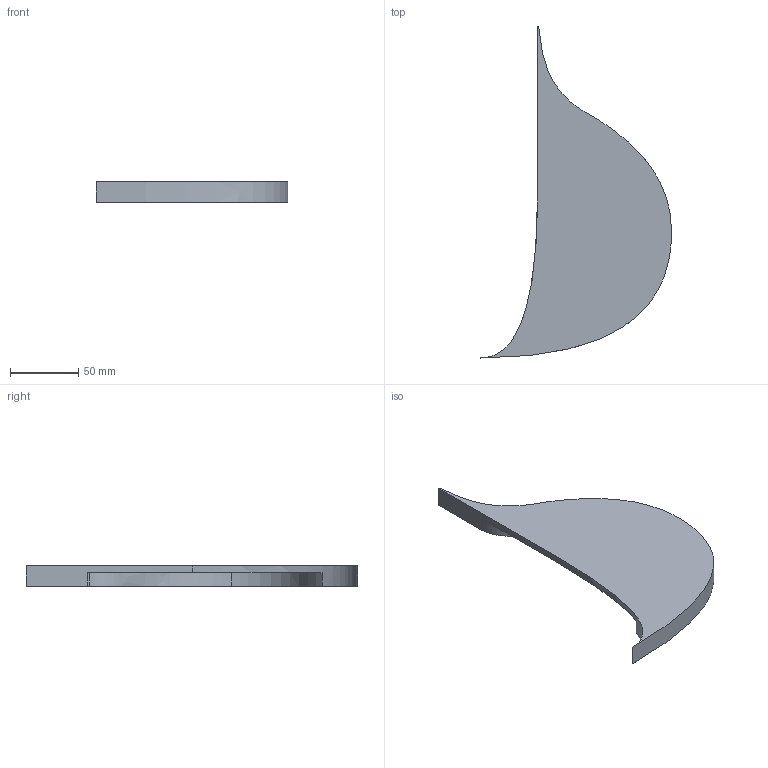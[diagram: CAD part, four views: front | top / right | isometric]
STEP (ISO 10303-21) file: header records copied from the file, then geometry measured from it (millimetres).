
FILE_DESCRIPTION(('FreeCAD Model'),'2;1');
FILE_NAME('Open CASCADE Shape Model','2024-03-17T22:25:42',('Author'),( ''),'Open CASCADE STEP processor 7.6','FreeCAD','Unknown');
FILE_SCHEMA(('AUTOMOTIVE_DESIGN { 1 0 10303 214 1 1 1 1 }'));
Length unit declared in the file: millimetre
Products named in the file (1): TechHalf_CNC
Bounding box: 140 x 242.98 x 15 mm (x, y, z)
Volume: 144848.2 mm3; surface area: 41056.5 mm2
Topology: 1 solids, 1 shells, 15 faces, 33 edges, 23 vertices
Faces by surface type: plane 8, extrusion 6, cylinder 1
Entity records: 973 total; most frequent: CARTESIAN_POINT 313, DIRECTION 96, ORIENTED_EDGE 66, PCURVE 66, DEFINITIONAL_REPRESENTATION 66, VECTOR 59, LINE 53, B_SPLINE_CURVE_WITH_KNOTS 39
